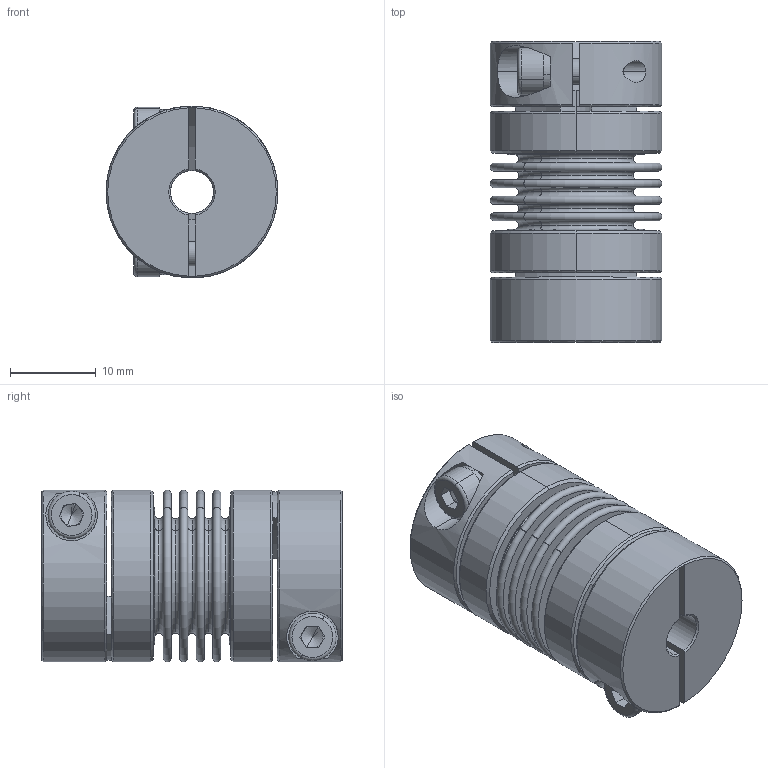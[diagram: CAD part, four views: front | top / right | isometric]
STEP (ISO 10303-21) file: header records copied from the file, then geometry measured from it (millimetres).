
FILE_DESCRIPTION (( 'STEP AP203' ), '1' );
FILE_NAME ('LB-B-D20L34-5-6.STEP', '2021-11-04T01:39:05', ( '' ), ( '' ), 'SwSTEP 2.0', 'SolidWorks 2018', '' );
FILE_SCHEMA (( 'CONFIG_CONTROL_DESIGN' ));
Length unit declared in the file: millimetre
Products named in the file (2): LB-B-D20L34-5-6; 零件4^LB-B-D20L34 波纹管联轴器-组装体
Assembly tree (1 placements, depth 2):
  LB-B-D20L34-5-6
    零件4^LB-B-D20L34 波纹管联轴器-组装体
Bounding box: 20 x 35 x 20 mm (x, y, z)
Volume: 6209.1 mm3; surface area: 9576.3 mm2
Topology: 1 solids, 1 shells, 246 faces, 578 edges, 358 vertices
Faces by surface type: plane 82, torus 68, cylinder 62, cone 34
Entity records: 7554 total; most frequent: CARTESIAN_POINT 1494, DIRECTION 1382, ORIENTED_EDGE 1148, AXIS2_PLACEMENT_3D 606, EDGE_CURVE 574, VERTEX_POINT 358, CIRCLE 356, EDGE_LOOP 288
